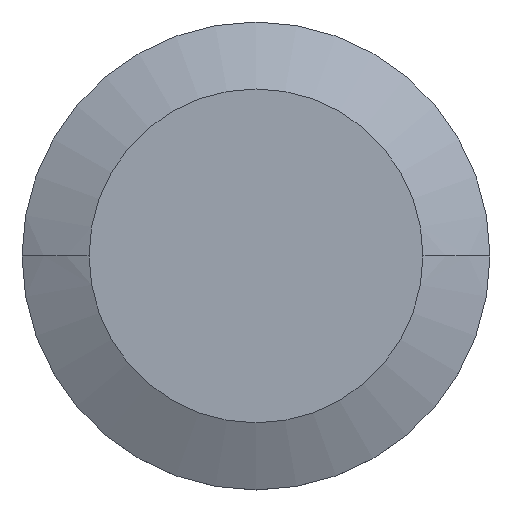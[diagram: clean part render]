
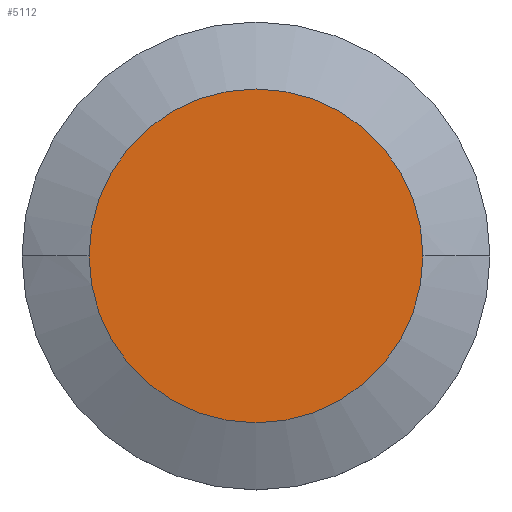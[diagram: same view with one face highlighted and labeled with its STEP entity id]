
A CAD part, top view. The second image highlights one B-rep face of the part: STEP entity #5112.
In plain terms, the highlighted planar face has unit normal (0, 0, 1).
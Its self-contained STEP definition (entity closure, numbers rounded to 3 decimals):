
#4891=CARTESIAN_POINT('',(0.,0.,23.8));
#4892=DIRECTION('',(0.,0.,-1.));
#4893=DIRECTION('',(1.,0.,0.));
#4894=AXIS2_PLACEMENT_3D('',#4891,#4892,#4893);
#4945=CARTESIAN_POINT('',(0.,0.,23.8));
#4946=DIRECTION('',(0.,0.,1.));
#4947=DIRECTION('',(1.,0.,0.));
#4948=AXIS2_PLACEMENT_3D('',#4945,#4946,#4947);
#5002=CARTESIAN_POINT('',(7.848,0.,23.8));
#5004=VERTEX_POINT('',#5002);
#5014=CARTESIAN_POINT('',(-7.848,0.,23.8));
#5016=VERTEX_POINT('',#5014);
#5101=CARTESIAN_POINT('',(0.,0.,23.8));
#5102=DIRECTION('',(0.,0.,-1.));
#5103=DIRECTION('',(1.,0.,0.));
#5104=AXIS2_PLACEMENT_3D('',#5101,#5102,#5103);
#5105=PLANE('',#5104);
#5107=ORIENTED_EDGE('',*,*,#5106,.F.);
#5109=ORIENTED_EDGE('',*,*,#5108,.T.);
#5110=EDGE_LOOP('',(#5107,#5109));
#5111=FACE_OUTER_BOUND('',#5110,.F.);
#5112=ADVANCED_FACE('',(#5111),#5105,.F.);
#4895=CIRCLE('',#4894,7.848);
#4949=CIRCLE('',#4948,7.848);
#5106=EDGE_CURVE('',#5004,#5016,#4949,.T.);
#5108=EDGE_CURVE('',#5004,#5016,#4895,.T.);
